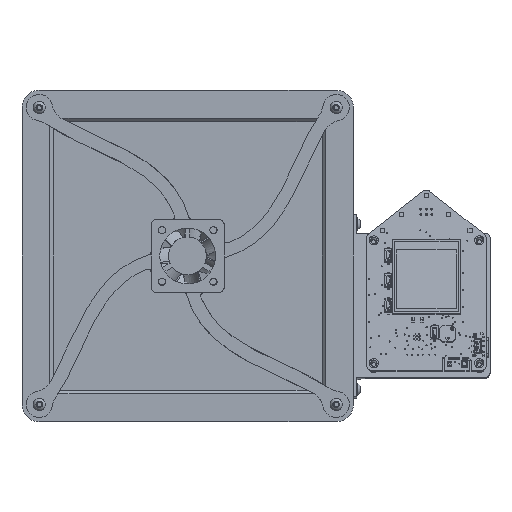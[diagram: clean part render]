
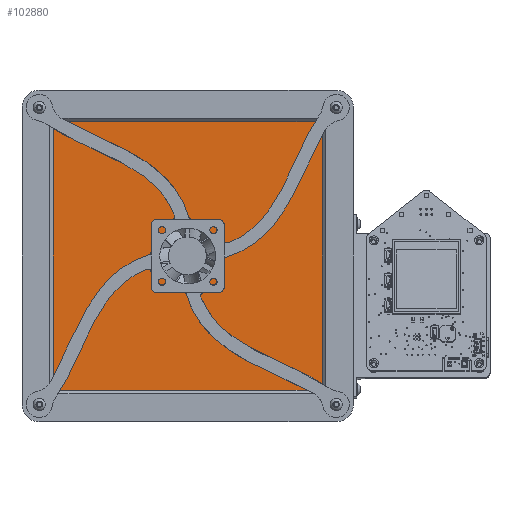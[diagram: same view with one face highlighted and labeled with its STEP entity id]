
A CAD part, front view. The second image highlights one B-rep face of the part: STEP entity #102880.
In plain terms, the highlighted planar face has unit normal (0, -1, 0).
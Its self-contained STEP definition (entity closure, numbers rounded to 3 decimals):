
#6693=PLANE('',#111350);
#11877=FACE_OUTER_BOUND('',#17919,.T.);
#17919=EDGE_LOOP('',(#91919,#91920,#91921,#91922));
#28331=LINE('',#202483,#38931);
#28335=LINE('',#202491,#38935);
#28338=LINE('',#202497,#38938);
#28341=LINE('',#202502,#38941);
#38931=VECTOR('',#136026,10.);
#38935=VECTOR('',#136032,10.);
#38938=VECTOR('',#136037,10.);
#38941=VECTOR('',#136042,10.);
#50858=VERTEX_POINT('',#202481);
#50859=VERTEX_POINT('',#202482);
#50862=VERTEX_POINT('',#202490);
#50864=VERTEX_POINT('',#202496);
#64684=EDGE_CURVE('',#50858,#50859,#28331,.T.);
#64688=EDGE_CURVE('',#50862,#50858,#28335,.T.);
#64691=EDGE_CURVE('',#50864,#50862,#28338,.T.);
#64694=EDGE_CURVE('',#50859,#50864,#28341,.T.);
#91919=ORIENTED_EDGE('',*,*,#64694,.F.);
#91920=ORIENTED_EDGE('',*,*,#64684,.F.);
#91921=ORIENTED_EDGE('',*,*,#64688,.F.);
#91922=ORIENTED_EDGE('',*,*,#64691,.F.);
#102880=ADVANCED_FACE('',(#11877),#6693,.F.);
#111350=AXIS2_PLACEMENT_3D('',#202505,#136046,#136047);
#136026=DIRECTION('',(-1.,0.,0.));
#136032=DIRECTION('',(0.,0.,-1.));
#136037=DIRECTION('',(1.,0.,0.));
#136042=DIRECTION('',(0.,0.,1.));
#136046=DIRECTION('center_axis',(0.,1.,0.));
#136047=DIRECTION('ref_axis',(1.,0.,0.));
#202481=CARTESIAN_POINT('',(65.,3.5,12.));
#202482=CARTESIAN_POINT('',(-65.,3.5,12.));
#202483=CARTESIAN_POINT('',(65.,3.5,12.));
#202490=CARTESIAN_POINT('',(65.,3.5,142.));
#202491=CARTESIAN_POINT('',(65.,3.5,142.));
#202496=CARTESIAN_POINT('',(-65.,3.5,142.));
#202497=CARTESIAN_POINT('',(-65.,3.5,142.));
#202502=CARTESIAN_POINT('',(-65.,3.5,12.));
#202505=CARTESIAN_POINT('Origin',(0.,3.5,77.));
